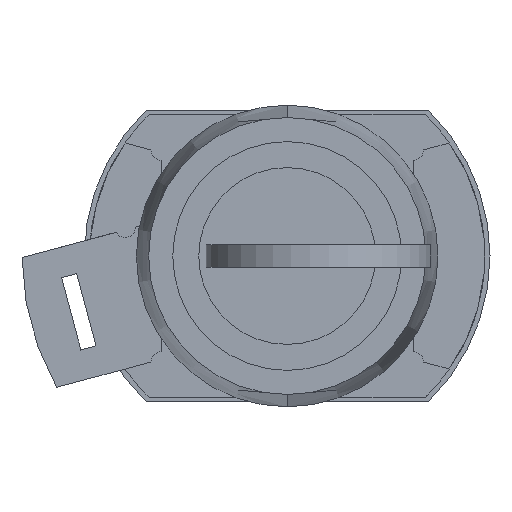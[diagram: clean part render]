
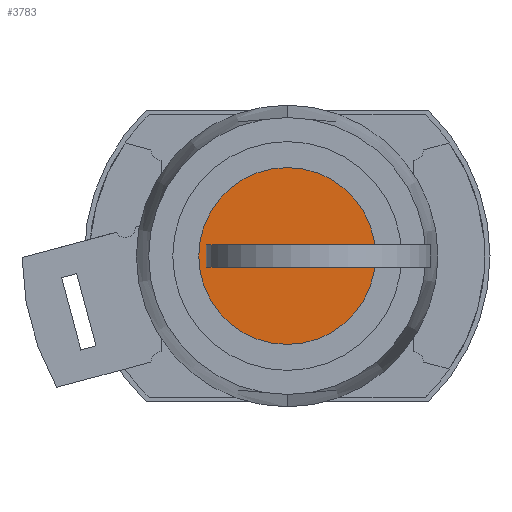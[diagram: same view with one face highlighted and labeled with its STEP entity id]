
A CAD part, left-side view. The second image highlights one B-rep face of the part: STEP entity #3783.
In plain terms, the highlighted planar face has unit normal (-1, 0, 0).
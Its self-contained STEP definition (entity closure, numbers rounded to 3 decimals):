
#324 = CARTESIAN_POINT ( 'NONE',  ( -15., -7., 1.1 ) ) ;
#1412 = CARTESIAN_POINT ( 'NONE',  ( -15., 0., -8.5 ) ) ;
#1877 = VERTEX_POINT ( 'NONE', #8783 ) ;
#2086 = EDGE_CURVE ( 'NONE', #1877, #8671, #8867, .T. ) ;
#2139 = CIRCLE ( 'NONE', #2140, 8.5 ) ;
#2140 = AXIS2_PLACEMENT_3D ( 'NONE', #2141, #2142, #2152 ) ;
#2141 = CARTESIAN_POINT ( 'NONE',  ( -15., 0., 0. ) ) ;
#2142 = DIRECTION ( 'NONE',  ( 1., 0., 0. ) ) ;
#2152 = DIRECTION ( 'NONE',  ( 0., 0., -1. ) ) ;
#2281 = EDGE_CURVE ( 'NONE', #8671, #7460, #8940, .T. ) ;
#2374 = CARTESIAN_POINT ( 'NONE',  ( -15., 2., -1.1 ) ) ;
#3258 = CIRCLE ( 'NONE', #3261, 8.5 ) ;
#3261 = AXIS2_PLACEMENT_3D ( 'NONE', #3262, #3263, #3264 ) ;
#3262 = CARTESIAN_POINT ( 'NONE',  ( -15., 0., 0. ) ) ;
#3263 = DIRECTION ( 'NONE',  ( 1., 0., 0. ) ) ;
#3264 = DIRECTION ( 'NONE',  ( 0., 0., -1. ) ) ;
#3783 = ADVANCED_FACE ( 'NONE', ( #9751, #9752 ), #9753, .T. ) ;
#4493 = LINE ( 'NONE', #4494, #4495 ) ;
#4494 = CARTESIAN_POINT ( 'NONE',  ( -15., -7., 0. ) ) ;
#4495 = VECTOR ( 'NONE', #4496, 1000. ) ;
#4496 = DIRECTION ( 'NONE',  ( 0., 0., -1. ) ) ;
#5098 = CARTESIAN_POINT ( 'NONE',  ( -15., 0., 8.5 ) ) ;
#5200 = CARTESIAN_POINT ( 'NONE',  ( -15., 2., 1.1 ) ) ;
#5469 = LINE ( 'NONE', #5470, #5471 ) ;
#5470 = CARTESIAN_POINT ( 'NONE',  ( -15., 4.25, 1.1 ) ) ;
#5471 = VECTOR ( 'NONE', #5472, 1000. ) ;
#5472 = DIRECTION ( 'NONE',  ( 0., -1., 0. ) ) ;
#5538 = VERTEX_POINT ( 'NONE', #324 ) ;
#6199 = ORIENTED_EDGE ( 'NONE', *, *, #9827, .F. ) ;
#6319 = ORIENTED_EDGE ( 'NONE', *, *, #6356, .F. ) ;
#6356 = EDGE_CURVE ( 'NONE', #7412, #8013, #2139, .T. ) ;
#7125 = EDGE_CURVE ( 'NONE', #5538, #1877, #4493, .T. ) ;
#7412 = VERTEX_POINT ( 'NONE', #5098 ) ;
#7460 = VERTEX_POINT ( 'NONE', #5200 ) ;
#7576 = EDGE_CURVE ( 'NONE', #7460, #5538, #5469, .T. ) ;
#7813 = ORIENTED_EDGE ( 'NONE', *, *, #2086, .T. ) ;
#7908 = ORIENTED_EDGE ( 'NONE', *, *, #2281, .T. ) ;
#7958 = EDGE_LOOP ( 'NONE', ( #6199, #6319 ) ) ;
#7960 = EDGE_LOOP ( 'NONE', ( #8042, #8121, #7813, #7908 ) ) ;
#8013 = VERTEX_POINT ( 'NONE', #1412 ) ;
#8042 = ORIENTED_EDGE ( 'NONE', *, *, #7576, .T. ) ;
#8121 = ORIENTED_EDGE ( 'NONE', *, *, #7125, .T. ) ;
#8671 = VERTEX_POINT ( 'NONE', #2374 ) ;
#8783 = CARTESIAN_POINT ( 'NONE',  ( -15., -7., -1.1 ) ) ;
#8867 = LINE ( 'NONE', #8868, #8869 ) ;
#8868 = CARTESIAN_POINT ( 'NONE',  ( -15., 4.25, -1.1 ) ) ;
#8869 = VECTOR ( 'NONE', #8870, 1000. ) ;
#8870 = DIRECTION ( 'NONE',  ( 0., 1., 0. ) ) ;
#8940 = LINE ( 'NONE', #8941, #8947 ) ;
#8941 = CARTESIAN_POINT ( 'NONE',  ( -15., 2., 0. ) ) ;
#8947 = VECTOR ( 'NONE', #8948, 1000. ) ;
#8948 = DIRECTION ( 'NONE',  ( 0., 0., 1. ) ) ;
#9751 = FACE_BOUND ( 'NONE', #7960, .T. ) ;
#9752 = FACE_OUTER_BOUND ( 'NONE', #7958, .T. ) ;
#9753 = PLANE ( 'NONE',  #9754 ) ;
#9754 = AXIS2_PLACEMENT_3D ( 'NONE', #9755, #9756, #9757 ) ;
#9755 = CARTESIAN_POINT ( 'NONE',  ( -15., 4.25, 0. ) ) ;
#9756 = DIRECTION ( 'NONE',  ( -1., 0., 0. ) ) ;
#9757 = DIRECTION ( 'NONE',  ( 0., 0., 1. ) ) ;
#9827 = EDGE_CURVE ( 'NONE', #8013, #7412, #3258, .T. ) ;
